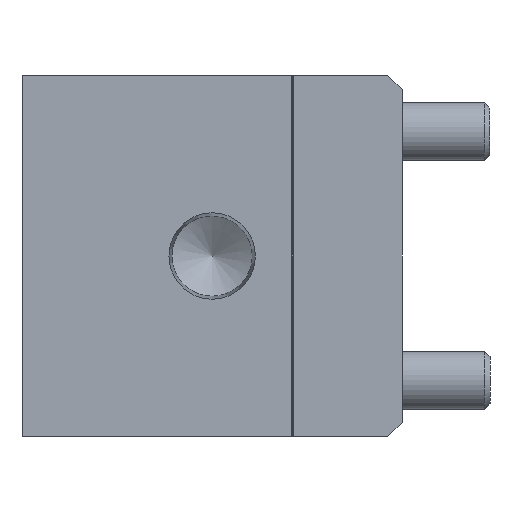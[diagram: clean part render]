
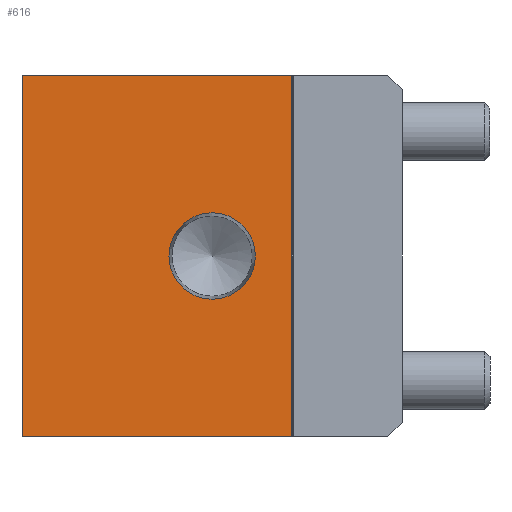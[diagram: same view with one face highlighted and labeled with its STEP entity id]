
A CAD part, left-side view. The second image highlights one B-rep face of the part: STEP entity #616.
In plain terms, the highlighted planar face has unit normal (-1, 0, 0).
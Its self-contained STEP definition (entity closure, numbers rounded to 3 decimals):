
#616 = ADVANCED_FACE( '', ( #1377, #1378 ), #1379, .F. );
#1377 = FACE_BOUND( '', #2340, .T. );
#1378 = FACE_OUTER_BOUND( '', #2341, .T. );
#1379 = PLANE( '', #2342 );
#2340 = EDGE_LOOP( '', ( #3724 ) );
#2341 = EDGE_LOOP( '', ( #3725, #3726, #3727, #3728 ) );
#2342 = AXIS2_PLACEMENT_3D( '', #3729, #3730, #3731 );
#3724 = ORIENTED_EDGE( '', *, *, #5516, .T. );
#3725 = ORIENTED_EDGE( '', *, *, #5218, .F. );
#3726 = ORIENTED_EDGE( '', *, *, #5517, .F. );
#3727 = ORIENTED_EDGE( '', *, *, #5518, .T. );
#3728 = ORIENTED_EDGE( '', *, *, #5519, .T. );
#3729 = CARTESIAN_POINT( '', ( 0., 52., 24.75 ) );
#3730 = DIRECTION( '', ( 1., 0., 0. ) );
#3731 = DIRECTION( '', ( 0., 0., -1. ) );
#5218 = EDGE_CURVE( '', #6106, #6108, #6109, .T. );
#5516 = EDGE_CURVE( '', #6573, #6573, #6574, .T. );
#5517 = EDGE_CURVE( '', #6575, #6106, #6576, .T. );
#5518 = EDGE_CURVE( '', #6575, #6577, #6578, .T. );
#5519 = EDGE_CURVE( '', #6577, #6108, #6579, .T. );
#6106 = VERTEX_POINT( '', #7314 );
#6108 = VERTEX_POINT( '', #7317 );
#6109 = LINE( '', #7318, #7319 );
#6573 = VERTEX_POINT( '', #7926 );
#6574 = CIRCLE( '', #7927, 5.91 );
#6575 = VERTEX_POINT( '', #7928 );
#6576 = LINE( '', #7929, #7930 );
#6577 = VERTEX_POINT( '', #7931 );
#6578 = LINE( '', #7932, #7933 );
#6579 = LINE( '', #7934, #7935 );
#7314 = CARTESIAN_POINT( '', ( 0., 15.1, 24.75 ) );
#7317 = CARTESIAN_POINT( '', ( 0., 15.1, -24.75 ) );
#7318 = CARTESIAN_POINT( '', ( 0., 15.1, 24.75 ) );
#7319 = VECTOR( '', #8679, 1000. );
#7926 = CARTESIAN_POINT( '', ( 0., 26., -5.91 ) );
#7927 = AXIS2_PLACEMENT_3D( '', #9048, #9049, #9050 );
#7928 = CARTESIAN_POINT( '', ( 0., 52., 24.75 ) );
#7929 = CARTESIAN_POINT( '', ( 0., 52., 24.75 ) );
#7930 = VECTOR( '', #9051, 1000. );
#7931 = CARTESIAN_POINT( '', ( 0., 52., -24.75 ) );
#7932 = CARTESIAN_POINT( '', ( 0., 52., 24.75 ) );
#7933 = VECTOR( '', #9052, 1000. );
#7934 = CARTESIAN_POINT( '', ( 0., 52., -24.75 ) );
#7935 = VECTOR( '', #9053, 1000. );
#8679 = DIRECTION( '', ( 0., 0., -1. ) );
#9048 = CARTESIAN_POINT( '', ( 0., 26., 0. ) );
#9049 = DIRECTION( '', ( 1., 0., 0. ) );
#9050 = DIRECTION( '', ( 0., 0., -1. ) );
#9051 = DIRECTION( '', ( 0., -1., 0. ) );
#9052 = DIRECTION( '', ( 0., 0., -1. ) );
#9053 = DIRECTION( '', ( 0., -1., 0. ) );
